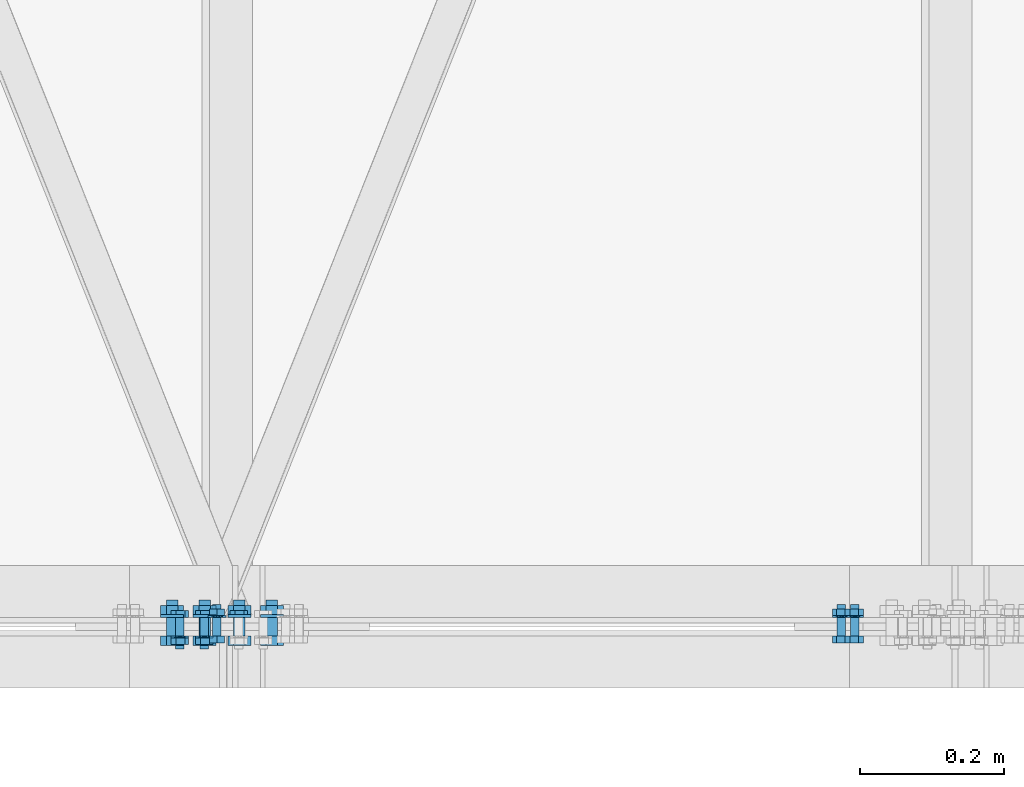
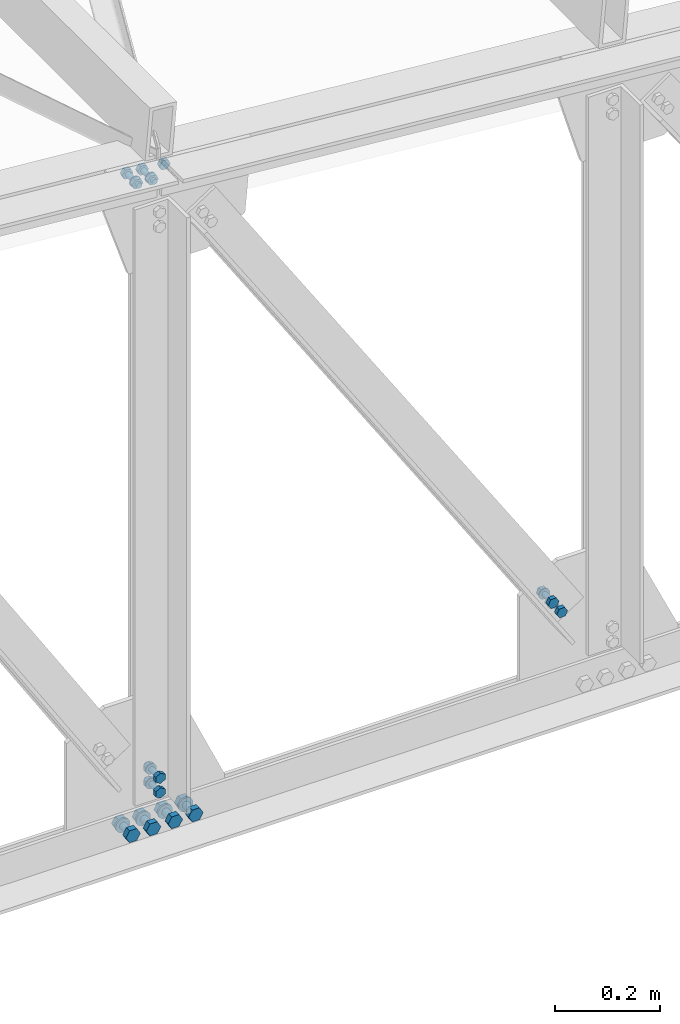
# One storey, part 86 of 251: 41 mechanical fasteners.
"""IFC4 building model written with IfcOpenShell, lengths in metres."""

from ifc_helpers import new_model, si_unit, frame, origin_with_axes, place, context, project, spatial, polyline, outline, extrude, type_object, element, save


model = new_model("IFC4")

# Units and contexts
model_context = context("Model", 3, precision=1e-05, world=origin_with_axes())
ifc_project = project(units=[si_unit("LENGTHUNIT", "METRE"), si_unit("AREAUNIT", "SQUARE_METRE"), si_unit("VOLUMEUNIT", "CUBIC_METRE"), si_unit("MASSUNIT", "GRAM", prefix="KILO"), si_unit("TIMEUNIT", "SECOND"), si_unit("PLANEANGLEUNIT", "RADIAN"), si_unit("SOLIDANGLEUNIT", "STERADIAN"), si_unit("THERMODYNAMICTEMPERATUREUNIT", "DEGREE_CELSIUS")], contexts=[model_context])

# Site, building, storey
placement_1 = place(None, origin_with_axes())
site = spatial("IfcSite", under=ifc_project, at=placement_1, Name="Italia", CompositionType="ELEMENT")
building = spatial("IfcBuilding", under=site, at=placement_1, Name="Deposito", CompositionType="ELEMENT")
storey = spatial("IfcBuildingStorey", under=building, at=placement_1, Name="Storey 0", CompositionType="ELEMENT", Elevation=0.0)

# Mechanical fasteners
mechanical_fastener_type_1 = type_object("IfcMechanicalFastenerType", Name="Reticolare 2", PredefinedType="BOLT")
placement_2 = place(placement_1, origin_with_axes())
mechanical_fastener_1_placement = place(placement_2, origin_with_axes())
element("IfcMechanicalFastener", 1, at=mechanical_fastener_1_placement, inside=storey, type_object=mechanical_fastener_type_1, Name="Reticolare 2", NominalDiameter=0.0159997, context=model_context, shape_type="SweptSolid", body=[
    extrude(outline(polyline([(0.0, 0.0), (-0.0159998, 0.0), (-0.0240002, 0.0138564), (-0.0159998, 0.0277128), (0.0, 0.0277128), (0.00799942, 0.0138564), (0.0, 0.0)])), frame((14.0068, -0.013, 4.99714), z_axis=(0.0, -1.0, 0.0), x_axis=(1.0, 0.0, 0.0)), (0.0, 0.0, 1.0), 0.0128),
])
mechanical_fastener_type_2 = type_object("IfcMechanicalFastenerType", Name="Reticolare 2", PredefinedType="BOLT")
mechanical_fastener_2_placement = place(placement_2, origin_with_axes())
element("IfcMechanicalFastener", 2, at=mechanical_fastener_2_placement, inside=storey, type_object=mechanical_fastener_type_2, Name="Reticolare 2", NominalDiameter=0.016, context=model_context, shape_type="SweptSolid", body=[
    extrude(outline(polyline([(0.0, 0.0), (-0.000272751, -0.00207043), (-0.00107193, -0.00400019), (-0.00234318, -0.00565672), (-0.00400066, -0.00692797), (-0.00592995, -0.00772762), (-0.00800037, -0.0079999), (-0.0100708, -0.00772762), (-0.0120001, -0.00692797), (-0.0136576, -0.00565672), (-0.0149288, -0.00400019), (-0.015728, -0.00207043), (-0.0160007, 0.0), (-0.015728, 0.00207043), (-0.0149288, 0.00400019), (-0.0136576, 0.00565672), (-0.0120001, 0.00692797), (-0.0100708, 0.00772762), (-0.00800037, 0.0079999), (-0.00592995, 0.00772762), (-0.00400066, 0.00692797), (-0.00234318, 0.00565672), (-0.00107193, 0.00400019), (-0.000272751, 0.00207043), (0.0, 0.0)])), frame((14.0068, 0.037, 5.011), z_axis=(0.0, -1.0, 0.0), x_axis=(1.0, 0.0, 0.0)), (0.0, 0.0, 1.0), 0.05),
])
mechanical_fastener_type_3 = type_object("IfcMechanicalFastenerType", Name="Reticolare 2", PredefinedType="BOLT")
mechanical_fastener_3_placement = place(placement_2, origin_with_axes())
element("IfcMechanicalFastener", 3, at=mechanical_fastener_3_placement, inside=storey, type_object=mechanical_fastener_type_3, Name="Reticolare 2", NominalDiameter=0.0159997, context=model_context, shape_type="SweptSolid", body=[
    extrude(outline(polyline([(0.0, 0.0), (-0.0159998, 0.0), (-0.0240002, 0.0138564), (-0.0159998, 0.0277128), (0.0, 0.0277128), (0.00799942, 0.0138564), (0.0, 0.0)])), frame((14.0068, 0.0298, 4.99714), z_axis=(0.0, -1.0, 0.0), x_axis=(1.0, 0.0, 0.0)), (0.0, 0.0, 1.0), 0.0128),
])
mechanical_fastener_type_4 = type_object("IfcMechanicalFastenerType", Name="Reticolare 2", PredefinedType="BOLT")
mechanical_fastener_4_placement = place(placement_2, origin_with_axes())
element("IfcMechanicalFastener", 4, at=mechanical_fastener_4_placement, inside=storey, type_object=mechanical_fastener_type_4, Name="Reticolare 2", NominalDiameter=0.032, context=model_context, shape_type="SweptSolid", body=[
    extrude(outline(polyline([(0.0, 0.0), (-0.000544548, -0.00414133), (-0.00214386, -0.0079999), (-0.00468636, -0.0113139), (-0.00799942, -0.0138564), (-0.0118589, -0.0154548), (-0.0159998, -0.0159998), (-0.0201406, -0.0154548), (-0.0240002, -0.0138564), (-0.0273132, -0.0113139), (-0.0298557, -0.0079999), (-0.031455, -0.00414133), (-0.0319996, 0.0), (-0.031455, 0.00414133), (-0.0298557, 0.0079999), (-0.0273132, 0.0113139), (-0.0240002, 0.0138564), (-0.0201406, 0.0154548), (-0.0159998, 0.0159998), (-0.0118589, 0.0154548), (-0.00799942, 0.0138564), (-0.00468636, 0.0113139), (-0.00214386, 0.0079999), (-0.000544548, 0.00414133), (0.0, 0.0)])), frame((14.0148, 0.017, 5.011), z_axis=(0.0, -1.0, 0.0), x_axis=(1.0, 0.0, 0.0)), (0.0, 0.0, 1.0), 0.004),
])
mechanical_fastener_type_5 = type_object("IfcMechanicalFastenerType", Name="Reticolare 2", PredefinedType="BOLT")
mechanical_fastener_5_placement = place(placement_2, origin_with_axes())
element("IfcMechanicalFastener", 5, at=mechanical_fastener_5_placement, inside=storey, type_object=mechanical_fastener_type_5, Name="Reticolare 2", NominalDiameter=0.0159997, context=model_context, shape_type="SweptSolid", body=[
    extrude(outline(polyline([(0.0, 0.0), (-0.0159998, 0.0), (-0.0240002, 0.0138564), (-0.0159998, 0.0277128), (0.0, 0.0277128), (0.00799942, 0.0138564), (0.0, 0.0)])), frame((13.9618, -0.013, 4.99714), z_axis=(0.0, -1.0, 0.0), x_axis=(1.0, 0.0, 0.0)), (0.0, 0.0, 1.0), 0.0128),
])
mechanical_fastener_type_6 = type_object("IfcMechanicalFastenerType", Name="Reticolare 2", PredefinedType="BOLT")
mechanical_fastener_6_placement = place(placement_2, origin_with_axes())
element("IfcMechanicalFastener", 6, at=mechanical_fastener_6_placement, inside=storey, type_object=mechanical_fastener_type_6, Name="Reticolare 2", NominalDiameter=0.016, context=model_context, shape_type="SweptSolid", body=[
    extrude(outline(polyline([(0.0, 0.0), (-0.000272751, -0.00207043), (-0.00107193, -0.00400019), (-0.00234318, -0.00565672), (-0.00400066, -0.00692797), (-0.00592995, -0.00772762), (-0.00800037, -0.0079999), (-0.0100708, -0.00772762), (-0.0120001, -0.00692797), (-0.0136576, -0.00565672), (-0.0149288, -0.00400019), (-0.015728, -0.00207043), (-0.0160007, 0.0), (-0.015728, 0.00207043), (-0.0149288, 0.00400019), (-0.0136576, 0.00565672), (-0.0120001, 0.00692797), (-0.0100708, 0.00772762), (-0.00800037, 0.0079999), (-0.00592995, 0.00772762), (-0.00400066, 0.00692797), (-0.00234318, 0.00565672), (-0.00107193, 0.00400019), (-0.000272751, 0.00207043), (0.0, 0.0)])), frame((13.9618, 0.037, 5.011), z_axis=(0.0, -1.0, 0.0), x_axis=(1.0, 0.0, 0.0)), (0.0, 0.0, 1.0), 0.05),
])
mechanical_fastener_type_7 = type_object("IfcMechanicalFastenerType", Name="Reticolare 2", PredefinedType="BOLT")
mechanical_fastener_7_placement = place(placement_2, origin_with_axes())
element("IfcMechanicalFastener", 7, at=mechanical_fastener_7_placement, inside=storey, type_object=mechanical_fastener_type_7, Name="Reticolare 2", NominalDiameter=0.0159997, context=model_context, shape_type="SweptSolid", body=[
    extrude(outline(polyline([(0.0, 0.0), (-0.0159998, 0.0), (-0.0240002, 0.0138564), (-0.0159998, 0.0277128), (0.0, 0.0277128), (0.00799942, 0.0138564), (0.0, 0.0)])), frame((13.9618, 0.0298, 4.99714), z_axis=(0.0, -1.0, 0.0), x_axis=(1.0, 0.0, 0.0)), (0.0, 0.0, 1.0), 0.0128),
])
mechanical_fastener_type_8 = type_object("IfcMechanicalFastenerType", Name="Reticolare 2", PredefinedType="BOLT")
mechanical_fastener_8_placement = place(placement_2, origin_with_axes())
element("IfcMechanicalFastener", 8, at=mechanical_fastener_8_placement, inside=storey, type_object=mechanical_fastener_type_8, Name="Reticolare 2", NominalDiameter=0.032, context=model_context, shape_type="SweptSolid", body=[
    extrude(outline(polyline([(0.0, 0.0), (-0.000544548, -0.00414133), (-0.00214386, -0.0079999), (-0.00468636, -0.0113139), (-0.00799942, -0.0138564), (-0.0118589, -0.0154548), (-0.0159998, -0.0159998), (-0.0201406, -0.0154548), (-0.0240002, -0.0138564), (-0.0273132, -0.0113139), (-0.0298557, -0.0079999), (-0.031455, -0.00414133), (-0.0319996, 0.0), (-0.031455, 0.00414133), (-0.0298557, 0.0079999), (-0.0273132, 0.0113139), (-0.0240002, 0.0138564), (-0.0201406, 0.0154548), (-0.0159998, 0.0159998), (-0.0118589, 0.0154548), (-0.00799942, 0.0138564), (-0.00468636, 0.0113139), (-0.00214386, 0.0079999), (-0.000544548, 0.00414133), (0.0, 0.0)])), frame((13.9698, 0.017, 5.011), z_axis=(0.0, -1.0, 0.0), x_axis=(1.0, 0.0, 0.0)), (0.0, 0.0, 1.0), 0.004),
])
mechanical_fastener_type_9 = type_object("IfcMechanicalFastenerType", Name="Reticolare 2", PredefinedType="BOLT")
mechanical_fastener_9_placement = place(placement_2, origin_with_axes())
element("IfcMechanicalFastener", 9, at=mechanical_fastener_9_placement, inside=storey, type_object=mechanical_fastener_type_9, Name="Reticolare 2", NominalDiameter=0.0159997, context=model_context, shape_type="SweptSolid", body=[
    extrude(outline(polyline([(0.0, 0.0), (-0.0159998, 0.0), (-0.0239992, 0.0138564), (-0.0159998, 0.0277128), (0.0, 0.0277128), (0.00800037, 0.0138564), (0.0, 0.0)])), frame((14.0548, -0.013, 4.99714), z_axis=(0.0, -1.0, 0.0), x_axis=(1.0, 0.0, 0.0)), (0.0, 0.0, 1.0), 0.0128),
])
mechanical_fastener_type_10 = type_object("IfcMechanicalFastenerType", Name="Reticolare 2", PredefinedType="BOLT")
mechanical_fastener_10_placement = place(placement_2, origin_with_axes())
element("IfcMechanicalFastener", 10, at=mechanical_fastener_10_placement, inside=storey, type_object=mechanical_fastener_type_10, Name="Reticolare 2", NominalDiameter=0.016, context=model_context, shape_type="SweptSolid", body=[
    extrude(outline(polyline([(0.0, 0.0), (-0.000272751, -0.00207043), (-0.00107193, -0.00400019), (-0.00234318, -0.00565672), (-0.00400066, -0.00692797), (-0.00592995, -0.00772762), (-0.00800037, -0.0079999), (-0.0100708, -0.00772762), (-0.0120001, -0.00692797), (-0.0136576, -0.00565672), (-0.0149288, -0.00400019), (-0.015728, -0.00207043), (-0.0160007, 0.0), (-0.015728, 0.00207043), (-0.0149288, 0.00400019), (-0.0136576, 0.00565672), (-0.0120001, 0.00692797), (-0.0100708, 0.00772762), (-0.00800037, 0.0079999), (-0.00592995, 0.00772762), (-0.00400066, 0.00692797), (-0.00234318, 0.00565672), (-0.00107193, 0.00400019), (-0.000272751, 0.00207043), (0.0, 0.0)])), frame((14.0548, 0.037, 5.011), z_axis=(0.0, -1.0, 0.0), x_axis=(1.0, 0.0, 0.0)), (0.0, 0.0, 1.0), 0.05),
])
mechanical_fastener_type_11 = type_object("IfcMechanicalFastenerType", Name="Reticolare 2", PredefinedType="BOLT")
mechanical_fastener_11_placement = place(placement_2, origin_with_axes())
element("IfcMechanicalFastener", 11, at=mechanical_fastener_11_placement, inside=storey, type_object=mechanical_fastener_type_11, Name="Reticolare 2", NominalDiameter=0.0159997, context=model_context, shape_type="SweptSolid", body=[
    extrude(outline(polyline([(0.0, 0.0), (-0.0159998, 0.0), (-0.0239992, 0.0138564), (-0.0159998, 0.0277128), (0.0, 0.0277128), (0.00800037, 0.0138564), (0.0, 0.0)])), frame((14.0548, 0.0298, 4.99714), z_axis=(0.0, -1.0, 0.0), x_axis=(1.0, 0.0, 0.0)), (0.0, 0.0, 1.0), 0.0128),
])
mechanical_fastener_type_12 = type_object("IfcMechanicalFastenerType", Name="Reticolare 2", PredefinedType="BOLT")
mechanical_fastener_12_placement = place(placement_2, origin_with_axes())
element("IfcMechanicalFastener", 12, at=mechanical_fastener_12_placement, inside=storey, type_object=mechanical_fastener_type_12, Name="Reticolare 2", NominalDiameter=0.032, context=model_context, shape_type="SweptSolid", body=[
    extrude(outline(polyline([(0.0, 0.0), (-0.000544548, -0.00414133), (-0.00214386, -0.0079999), (-0.00468636, -0.0113139), (-0.00799942, -0.0138564), (-0.0118589, -0.0154548), (-0.0159998, -0.0159998), (-0.0201406, -0.0154548), (-0.0240002, -0.0138564), (-0.0273132, -0.0113139), (-0.0298557, -0.0079999), (-0.031455, -0.00414133), (-0.0319996, 0.0), (-0.031455, 0.00414133), (-0.0298557, 0.0079999), (-0.0273132, 0.0113139), (-0.0240002, 0.0138564), (-0.0201406, 0.0154548), (-0.0159998, 0.0159998), (-0.0118589, 0.0154548), (-0.00799942, 0.0138564), (-0.00468636, 0.0113139), (-0.00214386, 0.0079999), (-0.000544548, 0.00414133), (0.0, 0.0)])), frame((14.0628, 0.017, 5.011), z_axis=(0.0, -1.0, 0.0), x_axis=(1.0, 0.0, 0.0)), (0.0, 0.0, 1.0), 0.004),
])
mechanical_fastener_type_13 = type_object("IfcMechanicalFastenerType", Name="Reticolare 2", PredefinedType="BOLT")
mechanical_fastener_13_placement = place(placement_2, origin_with_axes())
element("IfcMechanicalFastener", 13, at=mechanical_fastener_13_placement, inside=storey, type_object=mechanical_fastener_type_13, Name="Reticolare 2", NominalDiameter=0.0159997, context=model_context, shape_type="SweptSolid", body=[
    extrude(outline(polyline([(0.0, 0.0), (-0.0159998, 0.0), (-0.0239992, 0.0138564), (-0.0159998, 0.0277128), (0.0, 0.0277128), (0.00800037, 0.0138564), (0.0, 0.0)])), frame((14.0998, -0.013, 4.99714), z_axis=(0.0, -1.0, 0.0), x_axis=(1.0, 0.0, 0.0)), (0.0, 0.0, 1.0), 0.0128),
])
mechanical_fastener_type_14 = type_object("IfcMechanicalFastenerType", Name="Reticolare 2", PredefinedType="BOLT")
mechanical_fastener_14_placement = place(placement_2, origin_with_axes())
element("IfcMechanicalFastener", 14, at=mechanical_fastener_14_placement, inside=storey, type_object=mechanical_fastener_type_14, Name="Reticolare 2", NominalDiameter=0.016, context=model_context, shape_type="SweptSolid", body=[
    extrude(outline(polyline([(0.0, 0.0), (-0.000272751, -0.00207043), (-0.00107193, -0.00400019), (-0.00234318, -0.00565672), (-0.00400066, -0.00692797), (-0.00592995, -0.00772762), (-0.00800037, -0.0079999), (-0.0100708, -0.00772762), (-0.0120001, -0.00692797), (-0.0136576, -0.00565672), (-0.0149288, -0.00400019), (-0.015728, -0.00207043), (-0.0160007, 0.0), (-0.015728, 0.00207043), (-0.0149288, 0.00400019), (-0.0136576, 0.00565672), (-0.0120001, 0.00692797), (-0.0100708, 0.00772762), (-0.00800037, 0.0079999), (-0.00592995, 0.00772762), (-0.00400066, 0.00692797), (-0.00234318, 0.00565672), (-0.00107193, 0.00400019), (-0.000272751, 0.00207043), (0.0, 0.0)])), frame((14.0998, 0.037, 5.011), z_axis=(0.0, -1.0, 0.0), x_axis=(1.0, 0.0, 0.0)), (0.0, 0.0, 1.0), 0.05),
])
mechanical_fastener_type_15 = type_object("IfcMechanicalFastenerType", Name="Reticolare 2", PredefinedType="BOLT")
mechanical_fastener_15_placement = place(placement_2, origin_with_axes())
element("IfcMechanicalFastener", 15, at=mechanical_fastener_15_placement, inside=storey, type_object=mechanical_fastener_type_15, Name="Reticolare 2", NominalDiameter=0.0159997, context=model_context, shape_type="SweptSolid", body=[
    extrude(outline(polyline([(0.0, 0.0), (-0.0159998, 0.0), (-0.0239992, 0.0138564), (-0.0159998, 0.0277128), (0.0, 0.0277128), (0.00800037, 0.0138564), (0.0, 0.0)])), frame((14.0998, 0.0298, 4.99714), z_axis=(0.0, -1.0, 0.0), x_axis=(1.0, 0.0, 0.0)), (0.0, 0.0, 1.0), 0.0128),
])
mechanical_fastener_type_16 = type_object("IfcMechanicalFastenerType", Name="Reticolare 2", PredefinedType="BOLT")
mechanical_fastener_16_placement = place(placement_2, origin_with_axes())
element("IfcMechanicalFastener", 16, at=mechanical_fastener_16_placement, inside=storey, type_object=mechanical_fastener_type_16, Name="Reticolare 2", NominalDiameter=0.032, context=model_context, shape_type="SweptSolid", body=[
    extrude(outline(polyline([(0.0, 0.0), (-0.000544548, -0.00414133), (-0.00214386, -0.0079999), (-0.00468636, -0.0113139), (-0.00799942, -0.0138564), (-0.0118589, -0.0154548), (-0.0159998, -0.0159998), (-0.0201406, -0.0154548), (-0.0240002, -0.0138564), (-0.0273132, -0.0113139), (-0.0298557, -0.0079999), (-0.031455, -0.00414133), (-0.0319996, 0.0), (-0.031455, 0.00414133), (-0.0298557, 0.0079999), (-0.0273132, 0.0113139), (-0.0240002, 0.0138564), (-0.0201406, 0.0154548), (-0.0159998, 0.0159998), (-0.0118589, 0.0154548), (-0.00799942, 0.0138564), (-0.00468636, 0.0113139), (-0.00214386, 0.0079999), (-0.000544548, 0.00414133), (0.0, 0.0)])), frame((14.1078, 0.017, 5.011), z_axis=(0.0, -1.0, 0.0), x_axis=(1.0, 0.0, 0.0)), (0.0, 0.0, 1.0), 0.004),
])
mechanical_fastener_type_17 = type_object("IfcMechanicalFastenerType", Name="Reticolare 2", PredefinedType="BOLT")
mechanical_fastener_17_placement = place(placement_2, origin_with_axes())
element("IfcMechanicalFastener", 17, at=mechanical_fastener_17_placement, inside=storey, type_object=mechanical_fastener_type_17, Name="Reticolare 2", NominalDiameter=0.0119999, context=model_context, shape_type="SweptSolid", body=[
    extrude(outline(polyline([(0.0, 0.0), (0.0, -0.0120001), (-0.0103922, -0.0180001), (-0.0207844, -0.0120001), (-0.0207844, 0.0), (-0.0103922, 0.00600004), (0.0, 0.0)])), frame((14.0262, -0.013, 5.09253), z_axis=(0.0, -1.0, 0.0), x_axis=(1.0, 0.0, 0.0)), (0.0, 0.0, 1.0), 0.0096),
])
mechanical_fastener_type_18 = type_object("IfcMechanicalFastenerType", Name="Reticolare 2", PredefinedType="BOLT")
mechanical_fastener_18_placement = place(placement_2, origin_with_axes())
element("IfcMechanicalFastener", 18, at=mechanical_fastener_18_placement, inside=storey, type_object=mechanical_fastener_type_18, Name="Reticolare 2", NominalDiameter=0.012, context=model_context, shape_type="SweptSolid", body=[
    extrude(outline(polyline([(0.0, 0.0), (-0.000204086, -0.00155306), (-0.000802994, -0.00299978), (-0.00175667, -0.00424242), (-0.00299931, -0.00519609), (-0.00444698, -0.00579548), (-0.00599957, -0.00600004), (-0.00755215, -0.00579548), (-0.00899982, -0.00519609), (-0.0102425, -0.00424242), (-0.0111961, -0.00299978), (-0.011795, -0.00155306), (-0.0119991, 0.0), (-0.011795, 0.00155306), (-0.0111961, 0.00299978), (-0.0102425, 0.00424242), (-0.00899982, 0.00519609), (-0.00755215, 0.00579548), (-0.00599957, 0.00600004), (-0.00444698, 0.00579548), (-0.00299931, 0.00519609), (-0.00175667, 0.00424242), (-0.000802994, 0.00299978), (-0.000204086, 0.00155306), (0.0, 0.0)])), frame((14.0218, 0.031, 5.08653), z_axis=(0.0, -1.0, 0.0), x_axis=(1.0, 0.0, 0.0)), (0.0, 0.0, 1.0), 0.044),
])
mechanical_fastener_type_19 = type_object("IfcMechanicalFastenerType", Name="Reticolare 2", PredefinedType="BOLT")
mechanical_fastener_19_placement = place(placement_2, origin_with_axes())
element("IfcMechanicalFastener", 19, at=mechanical_fastener_19_placement, inside=storey, type_object=mechanical_fastener_type_19, Name="Reticolare 2", NominalDiameter=0.0119999, context=model_context, shape_type="SweptSolid", body=[
    extrude(outline(polyline([(0.0, 0.0), (0.0, -0.0120001), (-0.0103922, -0.0180001), (-0.0207844, -0.0120001), (-0.0207844, 0.0), (-0.0103922, 0.00600004), (0.0, 0.0)])), frame((14.0262, 0.0246, 5.09253), z_axis=(0.0, -1.0, 0.0), x_axis=(1.0, 0.0, 0.0)), (0.0, 0.0, 1.0), 0.0096),
])
mechanical_fastener_type_20 = type_object("IfcMechanicalFastenerType", Name="Reticolare 2", PredefinedType="BOLT")
mechanical_fastener_20_placement = place(placement_2, origin_with_axes())
element("IfcMechanicalFastener", 20, at=mechanical_fastener_20_placement, inside=storey, type_object=mechanical_fastener_type_20, Name="Reticolare 2", NominalDiameter=0.024, context=model_context, shape_type="SweptSolid", body=[
    extrude(outline(polyline([(0.0, 0.0), (-0.000409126, -0.00310564), (-0.00160789, -0.00600004), (-0.00351524, -0.00848532), (-0.00600052, -0.0103922), (-0.00889397, -0.011591), (-0.0120001, -0.0120001), (-0.0151062, -0.011591), (-0.0179996, -0.0103922), (-0.0204849, -0.00848532), (-0.0223923, -0.00600004), (-0.023591, -0.00310564), (-0.0240002, 0.0), (-0.023591, 0.00310564), (-0.0223923, 0.00600004), (-0.0204849, 0.00848532), (-0.0179996, 0.0103922), (-0.0151062, 0.011591), (-0.0120001, 0.0120001), (-0.00889397, 0.011591), (-0.00600052, 0.0103922), (-0.00351524, 0.00848532), (-0.00160789, 0.00600004), (-0.000409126, 0.00310564), (0.0, 0.0)])), frame((14.0278, 0.015, 5.08653), z_axis=(0.0, -1.0, 0.0), x_axis=(1.0, 0.0, 0.0)), (0.0, 0.0, 1.0), 0.002),
])
mechanical_fastener_type_21 = type_object("IfcMechanicalFastenerType", Name="Reticolare 2", PredefinedType="BOLT")
mechanical_fastener_21_placement = place(placement_2, origin_with_axes())
element("IfcMechanicalFastener", 21, at=mechanical_fastener_21_placement, inside=storey, type_object=mechanical_fastener_type_21, Name="Reticolare 2", NominalDiameter=0.0119999, context=model_context, shape_type="SweptSolid", body=[
    extrude(outline(polyline([(0.0, 0.0), (0.0, -0.0120001), (-0.0103922, -0.0180001), (-0.0207844, -0.0120001), (-0.0207844, 0.0), (-0.0103922, 0.00600004), (0.0, 0.0)])), frame((14.0262, -0.013, 5.12653), z_axis=(0.0, -1.0, 0.0), x_axis=(1.0, 0.0, 0.0)), (0.0, 0.0, 1.0), 0.0096),
])
mechanical_fastener_type_22 = type_object("IfcMechanicalFastenerType", Name="Reticolare 2", PredefinedType="BOLT")
mechanical_fastener_22_placement = place(placement_2, origin_with_axes())
element("IfcMechanicalFastener", 22, at=mechanical_fastener_22_placement, inside=storey, type_object=mechanical_fastener_type_22, Name="Reticolare 2", NominalDiameter=0.012, context=model_context, shape_type="SweptSolid", body=[
    extrude(outline(polyline([(0.0, 0.0), (-0.000204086, -0.00155306), (-0.000802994, -0.00299978), (-0.00175667, -0.00424242), (-0.00299931, -0.00519609), (-0.00444698, -0.00579548), (-0.00599957, -0.00600004), (-0.00755215, -0.00579548), (-0.00899982, -0.00519609), (-0.0102425, -0.00424242), (-0.0111961, -0.00299978), (-0.011795, -0.00155306), (-0.0119991, 0.0), (-0.011795, 0.00155306), (-0.0111961, 0.00299978), (-0.0102425, 0.00424242), (-0.00899982, 0.00519609), (-0.00755215, 0.00579548), (-0.00599957, 0.00600004), (-0.00444698, 0.00579548), (-0.00299931, 0.00519609), (-0.00175667, 0.00424242), (-0.000802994, 0.00299978), (-0.000204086, 0.00155306), (0.0, 0.0)])), frame((14.0218, 0.031, 5.12053), z_axis=(0.0, -1.0, 0.0), x_axis=(1.0, 0.0, 0.0)), (0.0, 0.0, 1.0), 0.044),
])
mechanical_fastener_type_23 = type_object("IfcMechanicalFastenerType", Name="Reticolare 2", PredefinedType="BOLT")
mechanical_fastener_23_placement = place(placement_2, origin_with_axes())
element("IfcMechanicalFastener", 23, at=mechanical_fastener_23_placement, inside=storey, type_object=mechanical_fastener_type_23, Name="Reticolare 2", NominalDiameter=0.0119999, context=model_context, shape_type="SweptSolid", body=[
    extrude(outline(polyline([(0.0, 0.0), (0.0, -0.0120001), (-0.0103922, -0.0180001), (-0.0207844, -0.0120001), (-0.0207844, 0.0), (-0.0103922, 0.00600004), (0.0, 0.0)])), frame((14.0262, 0.0246, 5.12653), z_axis=(0.0, -1.0, 0.0), x_axis=(1.0, 0.0, 0.0)), (0.0, 0.0, 1.0), 0.0096),
])
mechanical_fastener_type_24 = type_object("IfcMechanicalFastenerType", Name="Reticolare 2", PredefinedType="BOLT")
mechanical_fastener_24_placement = place(placement_2, origin_with_axes())
element("IfcMechanicalFastener", 24, at=mechanical_fastener_24_placement, inside=storey, type_object=mechanical_fastener_type_24, Name="Reticolare 2", NominalDiameter=0.024, context=model_context, shape_type="SweptSolid", body=[
    extrude(outline(polyline([(0.0, 0.0), (-0.000409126, -0.00310564), (-0.00160789, -0.00600004), (-0.00351524, -0.00848532), (-0.00600052, -0.0103922), (-0.00889397, -0.011591), (-0.0120001, -0.0120001), (-0.0151062, -0.011591), (-0.0179996, -0.0103922), (-0.0204849, -0.00848532), (-0.0223923, -0.00600004), (-0.023591, -0.00310564), (-0.0240002, 0.0), (-0.023591, 0.00310564), (-0.0223923, 0.00600004), (-0.0204849, 0.00848532), (-0.0179996, 0.0103922), (-0.0151062, 0.011591), (-0.0120001, 0.0120001), (-0.00889397, 0.011591), (-0.00600052, 0.0103922), (-0.00351524, 0.00848532), (-0.00160789, 0.00600004), (-0.000409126, 0.00310564), (0.0, 0.0)])), frame((14.0278, 0.015, 5.12053), z_axis=(0.0, -1.0, 0.0), x_axis=(1.0, 0.0, 0.0)), (0.0, 0.0, 1.0), 0.002),
])
mechanical_fastener_type_25 = type_object("IfcMechanicalFastenerType", Name="Reticolare 2", PredefinedType="BOLT")
mechanical_fastener_25_placement = place(placement_2, origin_with_axes())
element("IfcMechanicalFastener", 25, at=mechanical_fastener_25_placement, inside=storey, type_object=mechanical_fastener_type_25, Name="Reticolare 2", NominalDiameter=0.0119998, context=model_context, shape_type="SweptSolid", body=[
    extrude(outline(polyline([(0.0, 0.0), (-0.00656891, 0.0100422), (-0.00115681, 0.0207524), (0.0108252, 0.02142), (0.0173941, 0.0113778), (0.011982, 0.000667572), (0.0, 0.0)])), frame((14.8934, -0.013, 5.1858), z_axis=(0.0, -1.0, 0.0), x_axis=(1.0, 0.0, 0.0)), (0.0, 0.0, 1.0), 0.0096),
])
mechanical_fastener_type_26 = type_object("IfcMechanicalFastenerType", Name="Reticolare 2", PredefinedType="BOLT")
mechanical_fastener_26_placement = place(placement_2, origin_with_axes())
element("IfcMechanicalFastener", 26, at=mechanical_fastener_26_placement, inside=storey, type_object=mechanical_fastener_type_26, Name="Reticolare 2", NominalDiameter=0.012, context=model_context, shape_type="SweptSolid", body=[
    extrude(outline(polyline([(0.0, 0.0), (-0.000204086, -0.00155306), (-0.000802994, -0.00299978), (-0.00175667, -0.00424242), (-0.00299931, -0.00519609), (-0.00444698, -0.00579548), (-0.00599957, -0.00600004), (-0.00755215, -0.00579548), (-0.00899982, -0.00519609), (-0.0102425, -0.00424242), (-0.0111961, -0.00299978), (-0.011795, -0.00155306), (-0.0119991, 0.0), (-0.011795, 0.00155306), (-0.0111961, 0.00299978), (-0.0102425, 0.00424242), (-0.00899982, 0.00519609), (-0.00755215, 0.00579548), (-0.00599957, 0.00600004), (-0.00444698, 0.00579548), (-0.00299931, 0.00519609), (-0.00175667, 0.00424242), (-0.000802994, 0.00299978), (-0.000204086, 0.00155306), (0.0, 0.0)])), frame((14.9048, 0.031, 5.19651), z_axis=(0.0, -1.0, 0.0), x_axis=(1.0, 0.0, 0.0)), (0.0, 0.0, 1.0), 0.044),
])
mechanical_fastener_type_27 = type_object("IfcMechanicalFastenerType", Name="Reticolare 2", PredefinedType="BOLT")
mechanical_fastener_27_placement = place(placement_2, origin_with_axes())
element("IfcMechanicalFastener", 27, at=mechanical_fastener_27_placement, inside=storey, type_object=mechanical_fastener_type_27, Name="Reticolare 2", NominalDiameter=0.0119998, context=model_context, shape_type="SweptSolid", body=[
    extrude(outline(polyline([(0.0, 0.0), (-0.00656891, 0.0100422), (-0.00115681, 0.0207524), (0.0108252, 0.02142), (0.0173941, 0.0113778), (0.011982, 0.000667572), (0.0, 0.0)])), frame((14.8934, 0.0246, 5.1858), z_axis=(0.0, -1.0, 0.0), x_axis=(1.0, 0.0, 0.0)), (0.0, 0.0, 1.0), 0.0096),
])
mechanical_fastener_type_28 = type_object("IfcMechanicalFastenerType", Name="Reticolare 2", PredefinedType="BOLT")
mechanical_fastener_28_placement = place(placement_2, origin_with_axes())
element("IfcMechanicalFastener", 28, at=mechanical_fastener_28_placement, inside=storey, type_object=mechanical_fastener_type_28, Name="Reticolare 2", NominalDiameter=0.024, context=model_context, shape_type="SweptSolid", body=[
    extrude(outline(polyline([(0.0, 0.0), (-0.000409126, -0.00310564), (-0.00160789, -0.00600004), (-0.00351524, -0.00848532), (-0.00600052, -0.0103922), (-0.00889397, -0.011591), (-0.0120001, -0.0120001), (-0.0151062, -0.011591), (-0.0179996, -0.0103922), (-0.0204849, -0.00848532), (-0.0223923, -0.00600004), (-0.023591, -0.00310564), (-0.0240002, 0.0), (-0.023591, 0.00310564), (-0.0223923, 0.00600004), (-0.0204849, 0.00848532), (-0.0179996, 0.0103922), (-0.0151062, 0.011591), (-0.0120001, 0.0120001), (-0.00889397, 0.011591), (-0.00600052, 0.0103922), (-0.00351524, 0.00848532), (-0.00160789, 0.00600004), (-0.000409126, 0.00310564), (0.0, 0.0)])), frame((14.9108, 0.015, 5.19651), z_axis=(0.0, -1.0, 0.0), x_axis=(1.0, 0.0, 0.0)), (0.0, 0.0, 1.0), 0.002),
])
mechanical_fastener_type_29 = type_object("IfcMechanicalFastenerType", Name="Reticolare 2", PredefinedType="BOLT")
mechanical_fastener_29_placement = place(placement_2, origin_with_axes())
element("IfcMechanicalFastener", 29, at=mechanical_fastener_29_placement, inside=storey, type_object=mechanical_fastener_type_29, Name="Reticolare 2", NominalDiameter=0.0119996, context=model_context, shape_type="SweptSolid", body=[
    extrude(outline(polyline([(0.0, 0.0), (-0.00656891, 0.0100422), (-0.00115681, 0.0207524), (0.0108252, 0.02142), (0.0173941, 0.0113778), (0.011981, 0.000667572), (0.0, 0.0)])), frame((14.8748, -0.013, 5.21426), z_axis=(0.0, -1.0, 0.0), x_axis=(1.0, 0.0, 0.0)), (0.0, 0.0, 1.0), 0.0096),
])
mechanical_fastener_type_30 = type_object("IfcMechanicalFastenerType", Name="Reticolare 2", PredefinedType="BOLT")
mechanical_fastener_30_placement = place(placement_2, origin_with_axes())
element("IfcMechanicalFastener", 30, at=mechanical_fastener_30_placement, inside=storey, type_object=mechanical_fastener_type_30, Name="Reticolare 2", NominalDiameter=0.012, context=model_context, shape_type="SweptSolid", body=[
    extrude(outline(polyline([(0.0, 0.0), (-0.000204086, -0.00155306), (-0.000802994, -0.00299978), (-0.00175667, -0.00424242), (-0.00299931, -0.00519609), (-0.00444698, -0.00579548), (-0.00599957, -0.00600004), (-0.00755215, -0.00579548), (-0.00899982, -0.00519609), (-0.0102425, -0.00424242), (-0.0111961, -0.00299978), (-0.011795, -0.00155306), (-0.0119991, 0.0), (-0.011795, 0.00155306), (-0.0111961, 0.00299978), (-0.0102425, 0.00424242), (-0.00899982, 0.00519609), (-0.00755215, 0.00579548), (-0.00599957, 0.00600004), (-0.00444698, 0.00579548), (-0.00299931, 0.00519609), (-0.00175667, 0.00424242), (-0.000802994, 0.00299978), (-0.000204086, 0.00155306), (0.0, 0.0)])), frame((14.8862, 0.031, 5.22497), z_axis=(0.0, -1.0, 0.0), x_axis=(1.0, 0.0, 0.0)), (0.0, 0.0, 1.0), 0.044),
])
mechanical_fastener_type_31 = type_object("IfcMechanicalFastenerType", Name="Reticolare 2", PredefinedType="BOLT")
mechanical_fastener_31_placement = place(placement_2, origin_with_axes())
element("IfcMechanicalFastener", 31, at=mechanical_fastener_31_placement, inside=storey, type_object=mechanical_fastener_type_31, Name="Reticolare 2", NominalDiameter=0.0119996, context=model_context, shape_type="SweptSolid", body=[
    extrude(outline(polyline([(0.0, 0.0), (-0.00656891, 0.0100422), (-0.00115681, 0.0207524), (0.0108252, 0.02142), (0.0173941, 0.0113778), (0.011981, 0.000667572), (0.0, 0.0)])), frame((14.8748, 0.0246, 5.21426), z_axis=(0.0, -1.0, 0.0), x_axis=(1.0, 0.0, 0.0)), (0.0, 0.0, 1.0), 0.0096),
])
mechanical_fastener_type_32 = type_object("IfcMechanicalFastenerType", Name="Reticolare 2", PredefinedType="BOLT")
mechanical_fastener_32_placement = place(placement_2, origin_with_axes())
element("IfcMechanicalFastener", 32, at=mechanical_fastener_32_placement, inside=storey, type_object=mechanical_fastener_type_32, Name="Reticolare 2", NominalDiameter=0.024, context=model_context, shape_type="SweptSolid", body=[
    extrude(outline(polyline([(0.0, 0.0), (-0.000409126, -0.00310564), (-0.00160789, -0.00600004), (-0.00351524, -0.00848532), (-0.00600052, -0.0103922), (-0.00889397, -0.011591), (-0.0120001, -0.0120001), (-0.0151062, -0.011591), (-0.0179996, -0.0103922), (-0.0204849, -0.00848532), (-0.0223923, -0.00600004), (-0.023591, -0.00310564), (-0.0240002, 0.0), (-0.023591, 0.00310564), (-0.0223923, 0.00600004), (-0.0204849, 0.00848532), (-0.0179996, 0.0103922), (-0.0151062, 0.011591), (-0.0120001, 0.0120001), (-0.00889397, 0.011591), (-0.00600052, 0.0103922), (-0.00351524, 0.00848532), (-0.00160789, 0.00600004), (-0.000409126, 0.00310564), (0.0, 0.0)])), frame((14.8922, 0.015, 5.22497), z_axis=(0.0, -1.0, 0.0), x_axis=(1.0, 0.0, 0.0)), (0.0, 0.0, 1.0), 0.002),
])
mechanical_fastener_type_33 = type_object("IfcMechanicalFastenerType", Name="Reticolare 2", PredefinedType="BOLT")
mechanical_fastener_33_placement = place(placement_2, origin_with_axes())
element("IfcMechanicalFastener", 33, at=mechanical_fastener_33_placement, inside=storey, type_object=mechanical_fastener_type_33, Name="Reticolare 2", NominalDiameter=0.0119996, context=model_context, shape_type="SweptSolid", body=[
    extrude(outline(polyline([(0.0, 0.0), (0.0119572, 0.001019), (0.0188179, -0.00882626), (0.0137215, -0.0196905), (0.00176525, -0.0207095), (-0.00509548, -0.0108643), (0.0, 0.0)])), frame((14.0052, 0.013, 6.52784), z_axis=(0.0, 1.0, 0.0), x_axis=(-1.0, 0.0, 0.0)), (0.0, 0.0, 1.0), 0.0096),
])
mechanical_fastener_type_34 = type_object("IfcMechanicalFastenerType", Name="Reticolare 2", PredefinedType="BOLT")
mechanical_fastener_34_placement = place(placement_2, origin_with_axes())
element("IfcMechanicalFastener", 34, at=mechanical_fastener_34_placement, inside=storey, type_object=mechanical_fastener_type_34, Name="Reticolare 2", NominalDiameter=0.012, context=model_context, shape_type="SweptSolid", body=[
    extrude(outline(polyline([(0.0, 0.0), (-0.000204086, -0.00155306), (-0.000802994, -0.00299978), (-0.00175667, -0.00424242), (-0.00299931, -0.00519609), (-0.00444698, -0.00579548), (-0.00599957, -0.00600004), (-0.00755215, -0.00579548), (-0.00899982, -0.00519609), (-0.0102425, -0.00424242), (-0.0111961, -0.00299978), (-0.011795, -0.00155306), (-0.0119991, 0.0), (-0.011795, 0.00155306), (-0.0111961, 0.00299978), (-0.0102425, 0.00424242), (-0.00899982, 0.00519609), (-0.00755215, 0.00579548), (-0.00599957, 0.00600004), (-0.00444698, 0.00579548), (-0.00299931, 0.00519609), (-0.00175667, 0.00424242), (-0.000802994, 0.00299978), (-0.000204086, 0.00155306), (0.0, 0.0)])), frame((13.9923, -0.031, 6.518), z_axis=(0.0, 1.0, 0.0), x_axis=(-1.0, 0.0, 0.0)), (0.0, 0.0, 1.0), 0.044),
])
mechanical_fastener_type_35 = type_object("IfcMechanicalFastenerType", Name="Reticolare 2", PredefinedType="BOLT")
mechanical_fastener_35_placement = place(placement_2, origin_with_axes())
element("IfcMechanicalFastener", 35, at=mechanical_fastener_35_placement, inside=storey, type_object=mechanical_fastener_type_35, Name="Reticolare 2", NominalDiameter=0.0119996, context=model_context, shape_type="SweptSolid", body=[
    extrude(outline(polyline([(0.0, 0.0), (0.0119572, 0.001019), (0.0188179, -0.00882626), (0.0137215, -0.0196905), (0.00176525, -0.0207095), (-0.00509548, -0.0108643), (0.0, 0.0)])), frame((14.0052, -0.0246, 6.52784), z_axis=(0.0, 1.0, 0.0), x_axis=(-1.0, 0.0, 0.0)), (0.0, 0.0, 1.0), 0.0096),
])
mechanical_fastener_type_36 = type_object("IfcMechanicalFastenerType", Name="Reticolare 2", PredefinedType="BOLT")
mechanical_fastener_36_placement = place(placement_2, origin_with_axes())
element("IfcMechanicalFastener", 36, at=mechanical_fastener_36_placement, inside=storey, type_object=mechanical_fastener_type_36, Name="Reticolare 2", NominalDiameter=0.024, context=model_context, shape_type="SweptSolid", body=[
    extrude(outline(polyline([(0.0, 0.0), (-0.000409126, -0.00310564), (-0.00160789, -0.00600004), (-0.00351524, -0.00848532), (-0.00600052, -0.0103922), (-0.00889397, -0.011591), (-0.0120001, -0.0120001), (-0.0151062, -0.011591), (-0.0179996, -0.0103922), (-0.0204849, -0.00848532), (-0.0223923, -0.00600004), (-0.023591, -0.00310564), (-0.0240002, 0.0), (-0.023591, 0.00310564), (-0.0223923, 0.00600004), (-0.0204849, 0.00848532), (-0.0179996, 0.0103922), (-0.0151062, 0.011591), (-0.0120001, 0.0120001), (-0.00889397, 0.011591), (-0.00600052, 0.0103922), (-0.00351524, 0.00848532), (-0.00160789, 0.00600004), (-0.000409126, 0.00310564), (0.0, 0.0)])), frame((13.9863, -0.015, 6.518), z_axis=(0.0, 1.0, 0.0), x_axis=(-1.0, 0.0, 0.0)), (0.0, 0.0, 1.0), 0.002),
])
mechanical_fastener_type_37 = type_object("IfcMechanicalFastenerType", Name="Reticolare 2", PredefinedType="BOLT")
mechanical_fastener_37_placement = place(placement_2, origin_with_axes())
element("IfcMechanicalFastener", 37, at=mechanical_fastener_37_placement, inside=storey, type_object=mechanical_fastener_type_37, Name="Reticolare 2", NominalDiameter=0.0119996, context=model_context, shape_type="SweptSolid", body=[
    extrude(outline(polyline([(0.0, 0.0), (0.0119572, 0.001019), (0.0188179, -0.00882673), (0.0137215, -0.0196905), (0.00176525, -0.0207095), (-0.00509548, -0.0108643), (0.0, 0.0)])), frame((13.9713, 0.013, 6.53073), z_axis=(0.0, 1.0, 0.0), x_axis=(-1.0, 0.0, 0.0)), (0.0, 0.0, 1.0), 0.0096),
])
mechanical_fastener_type_38 = type_object("IfcMechanicalFastenerType", Name="Reticolare 2", PredefinedType="BOLT")
mechanical_fastener_38_placement = place(placement_2, origin_with_axes())
element("IfcMechanicalFastener", 38, at=mechanical_fastener_38_placement, inside=storey, type_object=mechanical_fastener_type_38, Name="Reticolare 2", NominalDiameter=0.012, context=model_context, shape_type="SweptSolid", body=[
    extrude(outline(polyline([(0.0, 0.0), (-0.000204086, -0.00155306), (-0.000802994, -0.00299978), (-0.00175667, -0.00424242), (-0.00299931, -0.00519609), (-0.00444698, -0.00579548), (-0.00599957, -0.00600004), (-0.00755215, -0.00579548), (-0.00899982, -0.00519609), (-0.0102425, -0.00424242), (-0.0111961, -0.00299978), (-0.011795, -0.00155306), (-0.0119991, 0.0), (-0.011795, 0.00155306), (-0.0111961, 0.00299978), (-0.0102425, 0.00424242), (-0.00899982, 0.00519609), (-0.00755215, 0.00579548), (-0.00599957, 0.00600004), (-0.00444698, 0.00579548), (-0.00299931, 0.00519609), (-0.00175667, 0.00424242), (-0.000802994, 0.00299978), (-0.000204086, 0.00155306), (0.0, 0.0)])), frame((13.9584, -0.031, 6.52089), z_axis=(0.0, 1.0, 0.0), x_axis=(-1.0, 0.0, 0.0)), (0.0, 0.0, 1.0), 0.044),
])
mechanical_fastener_type_39 = type_object("IfcMechanicalFastenerType", Name="Reticolare 2", PredefinedType="BOLT")
mechanical_fastener_39_placement = place(placement_2, origin_with_axes())
element("IfcMechanicalFastener", 39, at=mechanical_fastener_39_placement, inside=storey, type_object=mechanical_fastener_type_39, Name="Reticolare 2", NominalDiameter=0.0119996, context=model_context, shape_type="SweptSolid", body=[
    extrude(outline(polyline([(0.0, 0.0), (0.0119572, 0.001019), (0.0188179, -0.00882673), (0.0137215, -0.0196905), (0.00176525, -0.0207095), (-0.00509548, -0.0108643), (0.0, 0.0)])), frame((13.9713, -0.0246, 6.53073), z_axis=(0.0, 1.0, 0.0), x_axis=(-1.0, 0.0, 0.0)), (0.0, 0.0, 1.0), 0.0096),
])
mechanical_fastener_type_40 = type_object("IfcMechanicalFastenerType", Name="Reticolare 2", PredefinedType="BOLT")
mechanical_fastener_40_placement = place(placement_2, origin_with_axes())
element("IfcMechanicalFastener", 40, at=mechanical_fastener_40_placement, inside=storey, type_object=mechanical_fastener_type_40, Name="Reticolare 2", NominalDiameter=0.024, context=model_context, shape_type="SweptSolid", body=[
    extrude(outline(polyline([(0.0, 0.0), (-0.000409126, -0.00310564), (-0.00160789, -0.00600004), (-0.00351524, -0.00848532), (-0.00600052, -0.0103922), (-0.00889397, -0.011591), (-0.0120001, -0.0120001), (-0.0151062, -0.011591), (-0.0179996, -0.0103922), (-0.0204849, -0.00848532), (-0.0223923, -0.00600004), (-0.023591, -0.00310564), (-0.0240002, 0.0), (-0.023591, 0.00310564), (-0.0223923, 0.00600004), (-0.0204849, 0.00848532), (-0.0179996, 0.0103922), (-0.0151062, 0.011591), (-0.0120001, 0.0120001), (-0.00889397, 0.011591), (-0.00600052, 0.0103922), (-0.00351524, 0.00848532), (-0.00160789, 0.00600004), (-0.000409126, 0.00310564), (0.0, 0.0)])), frame((13.9524, -0.015, 6.52089), z_axis=(0.0, 1.0, 0.0), x_axis=(-1.0, 0.0, 0.0)), (0.0, 0.0, 1.0), 0.002),
])
mechanical_fastener_type_41 = type_object("IfcMechanicalFastenerType", Name="Reticolare 2", PredefinedType="BOLT")
mechanical_fastener_41_placement = place(placement_2, origin_with_axes())
element("IfcMechanicalFastener", 41, at=mechanical_fastener_41_placement, inside=storey, type_object=mechanical_fastener_type_41, Name="Reticolare 2", NominalDiameter=0.0119997, context=model_context, shape_type="SweptSolid", body=[
    extrude(outline(polyline([(0.0, 0.0), (0.0119543, 0.0010457), (0.0188379, -0.00878429), (0.0137663, -0.01966), (0.00181198, -0.0207057), (-0.00507069, -0.0108757), (0.0, 0.0)])), frame((14.053, 0.013, 6.5237), z_axis=(0.0, 1.0, 0.0), x_axis=(-1.0, 0.0, 0.0)), (0.0, 0.0, 1.0), 0.0096),
])

save(model, "model.ifc")
